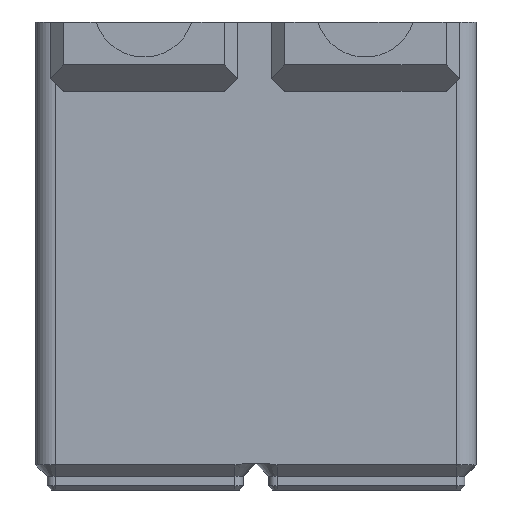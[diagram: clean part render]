
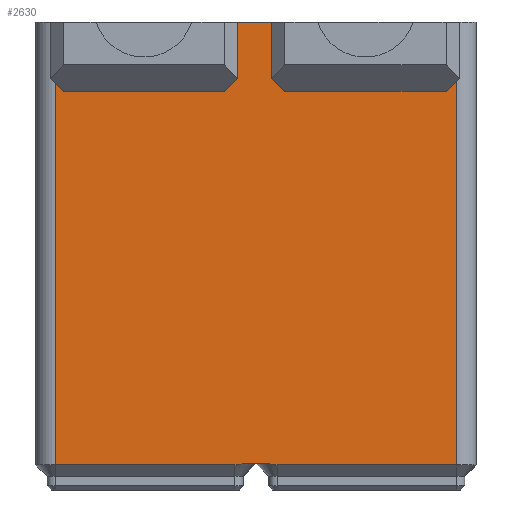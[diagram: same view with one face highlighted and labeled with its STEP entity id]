
A CAD part, left-side view. The second image highlights one B-rep face of the part: STEP entity #2630.
In plain terms, the highlighted planar face has unit normal (-1, 0, 0).
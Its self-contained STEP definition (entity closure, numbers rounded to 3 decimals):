
#33=(
BOUNDED_CURVE()
B_SPLINE_CURVE(2,(#4200,#4201,#4202),.UNSPECIFIED.,.F.,.F.)
B_SPLINE_CURVE_WITH_KNOTS((3,3),(0.,0.142),.UNSPECIFIED.)
CURVE()
GEOMETRIC_REPRESENTATION_ITEM()
RATIONAL_B_SPLINE_CURVE((1.,1.017,1.))
REPRESENTATION_ITEM('')
);
#34=(
BOUNDED_CURVE()
B_SPLINE_CURVE(2,(#4206,#4207,#4208),.UNSPECIFIED.,.F.,.F.)
B_SPLINE_CURVE_WITH_KNOTS((3,3),(0.142,0.284),
 .UNSPECIFIED.)
CURVE()
GEOMETRIC_REPRESENTATION_ITEM()
RATIONAL_B_SPLINE_CURVE((1.,1.017,1.))
REPRESENTATION_ITEM('')
);
#274=FACE_OUTER_BOUND('',#457,.T.);
#457=EDGE_LOOP('',(#1966,#1967,#1968,#1969,#1970,#1971,#1972,#1973,#1974,
#1975,#1976,#1977,#1978,#1979,#1980,#1981));
#599=LINE('',#3904,#866);
#604=LINE('',#3914,#871);
#606=LINE('',#3918,#873);
#629=LINE('',#3969,#896);
#634=LINE('',#3979,#901);
#636=LINE('',#3983,#903);
#713=LINE('',#4194,#980);
#714=LINE('',#4196,#981);
#715=LINE('',#4198,#982);
#716=LINE('',#4204,#983);
#717=LINE('',#4210,#984);
#718=LINE('',#4212,#985);
#719=LINE('',#4213,#986);
#720=LINE('',#4214,#987);
#866=VECTOR('',#3061,10.);
#871=VECTOR('',#3068,10.);
#873=VECTOR('',#3072,10.);
#896=VECTOR('',#3121,10.);
#901=VECTOR('',#3128,10.);
#903=VECTOR('',#3132,10.);
#980=VECTOR('',#3339,10.);
#981=VECTOR('',#3342,10.);
#982=VECTOR('',#3343,10.);
#983=VECTOR('',#3344,10.);
#984=VECTOR('',#3345,10.);
#985=VECTOR('',#3346,10.);
#986=VECTOR('',#3347,10.);
#987=VECTOR('',#3348,10.);
#1133=VERTEX_POINT('',#3902);
#1134=VERTEX_POINT('',#3903);
#1138=VERTEX_POINT('',#3913);
#1139=VERTEX_POINT('',#3917);
#1153=VERTEX_POINT('',#3967);
#1154=VERTEX_POINT('',#3968);
#1158=VERTEX_POINT('',#3978);
#1159=VERTEX_POINT('',#3982);
#1221=VERTEX_POINT('',#4190);
#1222=VERTEX_POINT('',#4192);
#1223=VERTEX_POINT('',#4197);
#1224=VERTEX_POINT('',#4199);
#1225=VERTEX_POINT('',#4203);
#1226=VERTEX_POINT('',#4205);
#1227=VERTEX_POINT('',#4209);
#1228=VERTEX_POINT('',#4211);
#1343=EDGE_CURVE('',#1133,#1134,#599,.T.);
#1348=EDGE_CURVE('',#1138,#1133,#604,.T.);
#1350=EDGE_CURVE('',#1139,#1138,#606,.T.);
#1375=EDGE_CURVE('',#1153,#1154,#629,.T.);
#1380=EDGE_CURVE('',#1158,#1153,#634,.T.);
#1382=EDGE_CURVE('',#1159,#1158,#636,.T.);
#1485=EDGE_CURVE('',#1222,#1221,#713,.T.);
#1486=EDGE_CURVE('',#1221,#1134,#714,.T.);
#1487=EDGE_CURVE('',#1223,#1222,#715,.T.);
#1488=EDGE_CURVE('',#1224,#1223,#33,.T.);
#1489=EDGE_CURVE('',#1225,#1224,#716,.T.);
#1490=EDGE_CURVE('',#1226,#1225,#34,.T.);
#1491=EDGE_CURVE('',#1227,#1226,#717,.T.);
#1492=EDGE_CURVE('',#1227,#1228,#718,.T.);
#1493=EDGE_CURVE('',#1159,#1228,#719,.T.);
#1494=EDGE_CURVE('',#1139,#1154,#720,.T.);
#1966=ORIENTED_EDGE('',*,*,#1343,.T.);
#1967=ORIENTED_EDGE('',*,*,#1486,.F.);
#1968=ORIENTED_EDGE('',*,*,#1485,.F.);
#1969=ORIENTED_EDGE('',*,*,#1487,.F.);
#1970=ORIENTED_EDGE('',*,*,#1488,.F.);
#1971=ORIENTED_EDGE('',*,*,#1489,.F.);
#1972=ORIENTED_EDGE('',*,*,#1490,.F.);
#1973=ORIENTED_EDGE('',*,*,#1491,.F.);
#1974=ORIENTED_EDGE('',*,*,#1492,.T.);
#1975=ORIENTED_EDGE('',*,*,#1493,.F.);
#1976=ORIENTED_EDGE('',*,*,#1382,.T.);
#1977=ORIENTED_EDGE('',*,*,#1380,.T.);
#1978=ORIENTED_EDGE('',*,*,#1375,.T.);
#1979=ORIENTED_EDGE('',*,*,#1494,.F.);
#1980=ORIENTED_EDGE('',*,*,#1350,.T.);
#1981=ORIENTED_EDGE('',*,*,#1348,.T.);
#2508=PLANE('',#2853);
#2630=ADVANCED_FACE('',(#274),#2508,.F.);
#2853=AXIS2_PLACEMENT_3D('',#4195,#3340,#3341);
#3061=DIRECTION('',(0.,0.,1.));
#3068=DIRECTION('',(0.,1.,0.));
#3072=DIRECTION('',(0.,0.,-1.));
#3121=DIRECTION('',(0.,0.,1.));
#3128=DIRECTION('',(0.,1.,0.));
#3132=DIRECTION('',(0.,0.,-1.));
#3339=DIRECTION('',(0.,0.,1.));
#3340=DIRECTION('center_axis',(1.,0.,0.));
#3341=DIRECTION('ref_axis',(0.,1.,0.));
#3342=DIRECTION('',(0.,-1.,0.));
#3343=DIRECTION('',(0.,1.,0.));
#3344=DIRECTION('',(0.,1.,0.));
#3345=DIRECTION('',(0.,1.,0.));
#3346=DIRECTION('',(0.,0.,1.));
#3347=DIRECTION('',(0.,-1.,0.));
#3348=DIRECTION('',(0.,-1.,0.));
#3902=CARTESIAN_POINT('',(0.25,78.55,75.6));
#3903=CARTESIAN_POINT('',(0.25,78.55,88.75));
#3904=CARTESIAN_POINT('',(0.25,78.55,40.3));
#3913=CARTESIAN_POINT('',(0.25,47.95,75.6));
#3914=CARTESIAN_POINT('',(0.25,25.975,75.6));
#3917=CARTESIAN_POINT('',(0.25,47.95,88.75));
#3918=CARTESIAN_POINT('',(0.25,47.95,46.875));
#3967=CARTESIAN_POINT('',(0.25,36.55,75.6));
#3968=CARTESIAN_POINT('',(0.25,36.55,88.75));
#3969=CARTESIAN_POINT('',(0.25,36.55,40.3));
#3978=CARTESIAN_POINT('',(0.25,5.95,75.6));
#3979=CARTESIAN_POINT('',(0.25,4.975,75.6));
#3982=CARTESIAN_POINT('',(0.25,5.95,88.75));
#3983=CARTESIAN_POINT('',(0.25,5.95,46.875));
#4190=CARTESIAN_POINT('',(0.25,80.,88.75));
#4192=CARTESIAN_POINT('',(0.25,80.,4.75));
#4194=CARTESIAN_POINT('',(0.25,80.,5.));
#4195=CARTESIAN_POINT('Origin',(0.25,4.,5.));
#4196=CARTESIAN_POINT('',(0.25,12.5,88.75));
#4197=CARTESIAN_POINT('',(0.25,46.,4.75));
#4198=CARTESIAN_POINT('',(0.25,33.5,4.75));
#4199=CARTESIAN_POINT('',(0.25,44.608,5.));
#4200=CARTESIAN_POINT('Ctrl Pts',(0.25,44.608,5.));
#4201=CARTESIAN_POINT('Ctrl Pts',(0.25,45.326,4.75));
#4202=CARTESIAN_POINT('Ctrl Pts',(0.25,46.,4.75));
#4203=CARTESIAN_POINT('',(0.25,39.392,5.));
#4204=CARTESIAN_POINT('',(0.25,23.,5.));
#4205=CARTESIAN_POINT('',(0.25,38.,4.75));
#4206=CARTESIAN_POINT('Ctrl Pts',(0.25,38.,4.75));
#4207=CARTESIAN_POINT('Ctrl Pts',(0.25,38.674,4.75));
#4208=CARTESIAN_POINT('Ctrl Pts',(0.25,39.392,5.));
#4209=CARTESIAN_POINT('',(0.25,4.,4.75));
#4210=CARTESIAN_POINT('',(0.25,12.5,4.75));
#4211=CARTESIAN_POINT('',(0.25,4.,88.75));
#4212=CARTESIAN_POINT('',(0.25,4.,5.));
#4213=CARTESIAN_POINT('',(0.25,12.5,88.75));
#4214=CARTESIAN_POINT('',(0.25,12.5,88.75));
